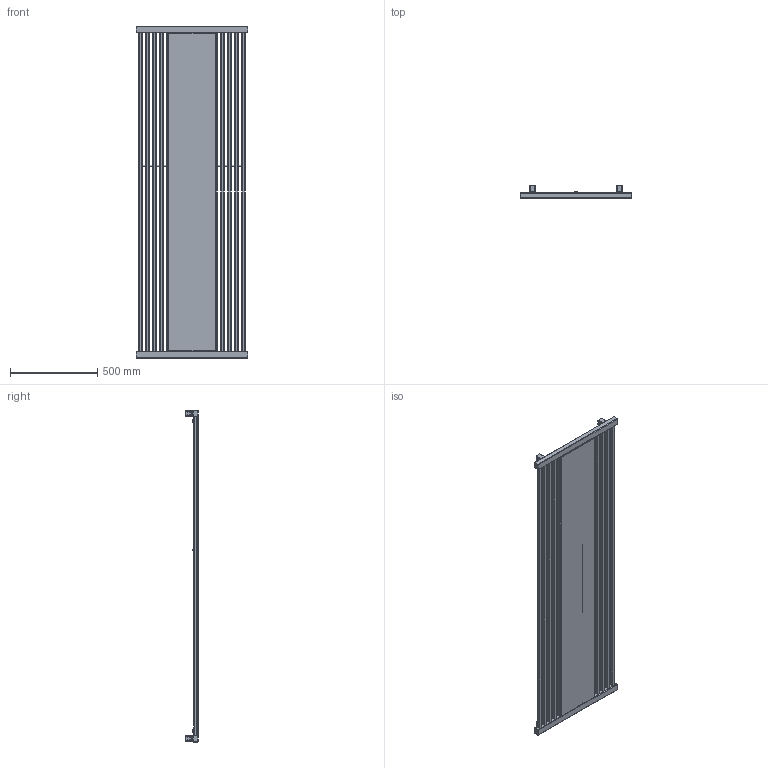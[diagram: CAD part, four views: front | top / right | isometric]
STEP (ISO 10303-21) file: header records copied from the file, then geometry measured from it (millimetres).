
FILE_DESCRIPTION((''),'2;1');
FILE_NAME('Z:\R\G\P\RGPH04 - Grzejnik Intra\Work\Inventor\Marketing\STEP\IN 19-64-ZX.stp','2012-07-25T15:03:20',('PioRo'),(''),'Autodesk Inventor 2012','Autodesk Inventor 2012','');
FILE_SCHEMA(('CONFIG_CONTROL_DESIGN'));
Length unit declared in the file: millimetre
Products named in the file (1): Część3
Bounding box: 640 x 74 x 1900 mm (x, y, z)
Volume: 14432970.8 mm3; surface area: 3556474.4 mm2
Topology: 10 solids, 36 shells, 776 faces, 1868 edges, 1184 vertices
Faces by surface type: plane 383, cylinder 277, bspline 72, cone 32, torus 12
Full cylindrical faces by diameter (mm): 4.134 x4, 6.912 x2, 8 x4, 9.5 x2, 10 x4, 11 x4, 11.1 x2, 12 x10, 13 x2
Entity records: 25857 total; most frequent: CARTESIAN_POINT 7283, DIRECTION 3620, ORIENTED_EDGE 3580, EDGE_CURVE 1790, AXIS2_PLACEMENT_3D 1293, VERTEX_POINT 1168, VECTOR 1034, LINE 1034
